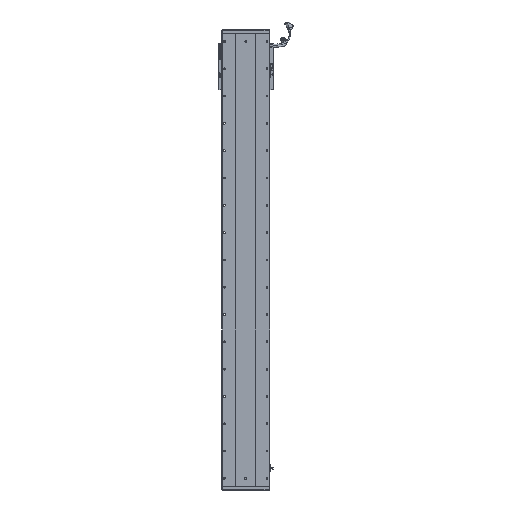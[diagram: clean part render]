
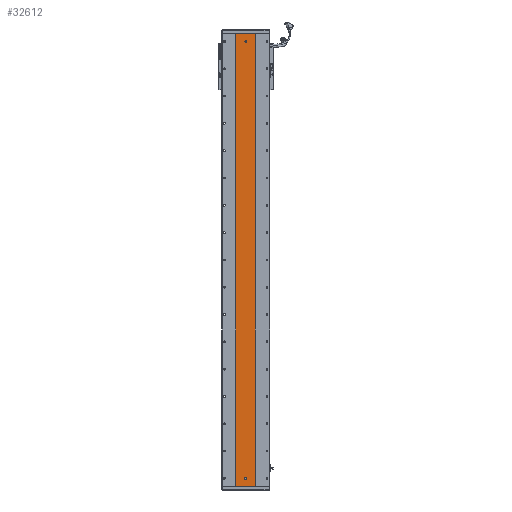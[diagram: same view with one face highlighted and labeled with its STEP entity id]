
A CAD part, front view. The second image highlights one B-rep face of the part: STEP entity #32612.
In plain terms, the highlighted planar face has unit normal (0, -1, 0).
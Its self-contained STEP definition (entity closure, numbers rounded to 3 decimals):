
#1096 = LINE ( 'NONE', #98436, #8783 ) ;
#1577 = ORIENTED_EDGE ( 'NONE', *, *, #56870, .F. ) ;
#2782 = AXIS2_PLACEMENT_3D ( 'NONE', #38426, #46304, #78039 ) ;
#3651 = FACE_OUTER_BOUND ( 'NONE', #83215, .T. ) ;
#5162 = ORIENTED_EDGE ( 'NONE', *, *, #77444, .F. ) ;
#5385 = CARTESIAN_POINT ( 'NONE',  ( 3280.529, 1415.701, 1628.5 ) ) ;
#6188 = VECTOR ( 'NONE', #70661, 1000. ) ;
#6442 = ORIENTED_EDGE ( 'NONE', *, *, #99233, .F. ) ;
#8702 = DIRECTION ( 'NONE',  ( 0., 0., -1. ) ) ;
#8783 = VECTOR ( 'NONE', #100176, 1000. ) ;
#10200 = ORIENTED_EDGE ( 'NONE', *, *, #47356, .F. ) ;
#10891 = CARTESIAN_POINT ( 'NONE',  ( 3244.748, 1415.701, 1657. ) ) ;
#17071 = DIRECTION ( 'NONE',  ( 0., -1., 0. ) ) ;
#17178 = VECTOR ( 'NONE', #8702, 1000. ) ;
#17327 = EDGE_CURVE ( 'NONE', #17564, #98898, #24039, .T. ) ;
#17564 = VERTEX_POINT ( 'NONE', #47514 ) ;
#22247 = VECTOR ( 'NONE', #34372, 1000. ) ;
#24039 = LINE ( 'NONE', #37852, #6188 ) ;
#24809 = LINE ( 'NONE', #75370, #22247 ) ;
#26166 = AXIS2_PLACEMENT_3D ( 'NONE', #54171, #86229, #86934 ) ;
#27310 = EDGE_CURVE ( 'NONE', #77048, #17564, #38006, .T. ) ;
#27802 = AXIS2_PLACEMENT_3D ( 'NONE', #49592, #17071, #82327 ) ;
#29204 = CARTESIAN_POINT ( 'NONE',  ( 3244.748, 1415.701, 1657. ) ) ;
#30609 = DIRECTION ( 'NONE',  ( 0., 0., -1. ) ) ;
#30680 = ORIENTED_EDGE ( 'NONE', *, *, #74432, .T. ) ;
#31233 = LINE ( 'NONE', #64350, #17178 ) ;
#32482 = EDGE_CURVE ( 'NONE', #89732, #77048, #1096, .T. ) ;
#32612 = ADVANCED_FACE ( 'NONE', ( #85301, #47075, #3651 ), #95529, .F. ) ;
#33530 = DIRECTION ( 'NONE',  ( 1., 0., 0. ) ) ;
#34372 = DIRECTION ( 'NONE',  ( 1., 0., 0. ) ) ;
#37852 = CARTESIAN_POINT ( 'NONE',  ( 3277.529, 1415.701, 30. ) ) ;
#38006 = CIRCLE ( 'NONE', #41488, 3. ) ;
#38426 = CARTESIAN_POINT ( 'NONE',  ( 3280.529, 1415.701, 27. ) ) ;
#39190 = DIRECTION ( 'NONE',  ( 0., -1., 0. ) ) ;
#41488 = AXIS2_PLACEMENT_3D ( 'NONE', #63457, #39190, #78450 ) ;
#43727 = VERTEX_POINT ( 'NONE', #71616 ) ;
#45410 = ORIENTED_EDGE ( 'NONE', *, *, #74202, .F. ) ;
#45898 = CARTESIAN_POINT ( 'NONE',  ( 3280.529, 1415.701, 1631.5 ) ) ;
#46304 = DIRECTION ( 'NONE',  ( 0., -1., 0. ) ) ;
#47075 = FACE_BOUND ( 'NONE', #72812, .T. ) ;
#47225 = CARTESIAN_POINT ( 'NONE',  ( 3280.529, 1415.701, 24. ) ) ;
#47356 = EDGE_CURVE ( 'NONE', #54789, #89732, #70503, .T. ) ;
#47514 = CARTESIAN_POINT ( 'NONE',  ( 3277.529, 1415.701, 30. ) ) ;
#48612 = CIRCLE ( 'NONE', #27802, 3. ) ;
#49592 = CARTESIAN_POINT ( 'NONE',  ( 3280.529, 1415.701, 1628.5 ) ) ;
#53765 = CIRCLE ( 'NONE', #87020, 3. ) ;
#54171 = CARTESIAN_POINT ( 'NONE',  ( 3244.748, 1415.701, 1657. ) ) ;
#54789 = VERTEX_POINT ( 'NONE', #47225 ) ;
#54870 = LINE ( 'NONE', #105541, #100807 ) ;
#54884 = DIRECTION ( 'NONE',  ( 0., -1., 0. ) ) ;
#55279 = CARTESIAN_POINT ( 'NONE',  ( 3244.748, 1415.701, 0. ) ) ;
#56486 = CARTESIAN_POINT ( 'NONE',  ( 3277.529, 1415.701, 27. ) ) ;
#56639 = ORIENTED_EDGE ( 'NONE', *, *, #98491, .T. ) ;
#56870 = EDGE_CURVE ( 'NONE', #98898, #54789, #105327, .T. ) ;
#58674 = DIRECTION ( 'NONE',  ( 0., 0., -1. ) ) ;
#62853 = VECTOR ( 'NONE', #58674, 1000. ) ;
#63457 = CARTESIAN_POINT ( 'NONE',  ( 3280.529, 1415.701, 30. ) ) ;
#63928 = VERTEX_POINT ( 'NONE', #96294 ) ;
#64350 = CARTESIAN_POINT ( 'NONE',  ( 3316.311, 1415.701, 1657. ) ) ;
#67459 = VERTEX_POINT ( 'NONE', #29204 ) ;
#68958 = VERTEX_POINT ( 'NONE', #55279 ) ;
#70503 = CIRCLE ( 'NONE', #2782, 3. ) ;
#70661 = DIRECTION ( 'NONE',  ( 0., 0., -1. ) ) ;
#71616 = CARTESIAN_POINT ( 'NONE',  ( 3280.529, 1415.701, 1625.5 ) ) ;
#72812 = EDGE_LOOP ( 'NONE', ( #6442, #76461 ) ) ;
#74202 = EDGE_CURVE ( 'NONE', #84993, #63928, #31233, .T. ) ;
#74432 = EDGE_CURVE ( 'NONE', #68958, #63928, #24809, .T. ) ;
#75370 = CARTESIAN_POINT ( 'NONE',  ( 3244.748, 1415.701, 0. ) ) ;
#76461 = ORIENTED_EDGE ( 'NONE', *, *, #102969, .F. ) ;
#77048 = VERTEX_POINT ( 'NONE', #101699 ) ;
#77444 = EDGE_CURVE ( 'NONE', #67459, #84993, #54870, .T. ) ;
#78039 = DIRECTION ( 'NONE',  ( 0., 0., -1. ) ) ;
#78129 = DIRECTION ( 'NONE',  ( 0., 0., -1. ) ) ;
#78409 = CARTESIAN_POINT ( 'NONE',  ( 3280.529, 1415.701, 27. ) ) ;
#78450 = DIRECTION ( 'NONE',  ( 0., 0., -1. ) ) ;
#79413 = LINE ( 'NONE', #10891, #62853 ) ;
#82327 = DIRECTION ( 'NONE',  ( 0., 0., -1. ) ) ;
#82974 = CARTESIAN_POINT ( 'NONE',  ( 3316.311, 1415.701, 1657. ) ) ;
#82976 = VERTEX_POINT ( 'NONE', #45898 ) ;
#83215 = EDGE_LOOP ( 'NONE', ( #30680, #45410, #5162, #56639 ) ) ;
#84993 = VERTEX_POINT ( 'NONE', #82974 ) ;
#85301 = FACE_BOUND ( 'NONE', #86401, .T. ) ;
#86229 = DIRECTION ( 'NONE',  ( 0., 1., 0. ) ) ;
#86401 = EDGE_LOOP ( 'NONE', ( #1577, #90608, #104216, #87985, #10200 ) ) ;
#86934 = DIRECTION ( 'NONE',  ( 0., 0., 1. ) ) ;
#87020 = AXIS2_PLACEMENT_3D ( 'NONE', #5385, #102718, #78129 ) ;
#87214 = CARTESIAN_POINT ( 'NONE',  ( 3283.529, 1415.701, 27. ) ) ;
#87985 = ORIENTED_EDGE ( 'NONE', *, *, #32482, .F. ) ;
#89732 = VERTEX_POINT ( 'NONE', #87214 ) ;
#90608 = ORIENTED_EDGE ( 'NONE', *, *, #17327, .F. ) ;
#95529 = PLANE ( 'NONE',  #26166 ) ;
#96259 = AXIS2_PLACEMENT_3D ( 'NONE', #78409, #54884, #30609 ) ;
#96294 = CARTESIAN_POINT ( 'NONE',  ( 3316.311, 1415.701, 0. ) ) ;
#98436 = CARTESIAN_POINT ( 'NONE',  ( 3283.529, 1415.701, 30. ) ) ;
#98491 = EDGE_CURVE ( 'NONE', #67459, #68958, #79413, .T. ) ;
#98898 = VERTEX_POINT ( 'NONE', #56486 ) ;
#99233 = EDGE_CURVE ( 'NONE', #43727, #82976, #53765, .T. ) ;
#100176 = DIRECTION ( 'NONE',  ( 0., 0., 1. ) ) ;
#100807 = VECTOR ( 'NONE', #33530, 1000. ) ;
#101699 = CARTESIAN_POINT ( 'NONE',  ( 3283.529, 1415.701, 30. ) ) ;
#102718 = DIRECTION ( 'NONE',  ( 0., -1., 0. ) ) ;
#102969 = EDGE_CURVE ( 'NONE', #82976, #43727, #48612, .T. ) ;
#104216 = ORIENTED_EDGE ( 'NONE', *, *, #27310, .F. ) ;
#105327 = CIRCLE ( 'NONE', #96259, 3. ) ;
#105541 = CARTESIAN_POINT ( 'NONE',  ( 3244.748, 1415.701, 1657. ) ) ;
